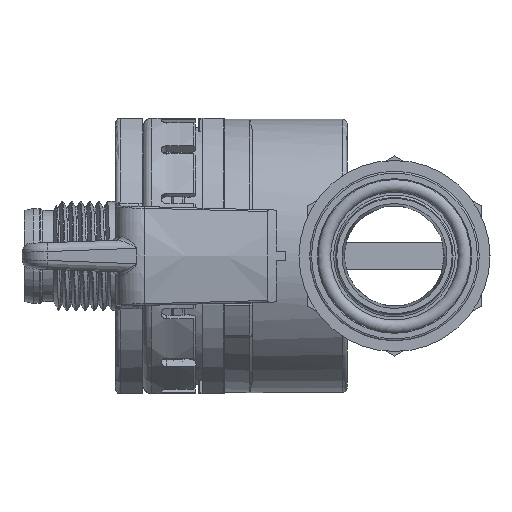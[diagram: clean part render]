
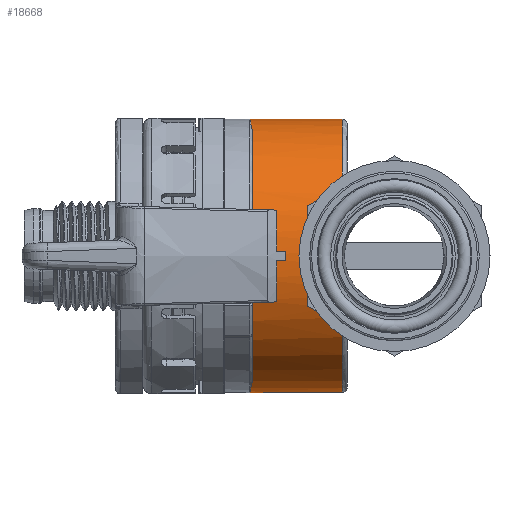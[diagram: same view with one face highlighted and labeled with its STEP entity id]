
A CAD part, left-side view. The second image highlights one B-rep face of the part: STEP entity #18668.
In plain terms, the highlighted cylindrical face has radius 15 mm (diameter 30 mm), a full revolution.
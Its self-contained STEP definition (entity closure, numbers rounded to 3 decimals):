
#1321=B_SPLINE_CURVE_WITH_KNOTS('',3,(#39299,#39300,#39301,#39302),
 .UNSPECIFIED.,.F.,.F.,(4,4),(0.,1.),.UNSPECIFIED.);
#1324=B_SPLINE_CURVE_WITH_KNOTS('',3,(#39332,#39333,#39334,#39335),
 .UNSPECIFIED.,.F.,.F.,(4,4),(0.,1.),.UNSPECIFIED.);
#1329=B_SPLINE_CURVE_WITH_KNOTS('',3,(#39442,#39443,#39444,#39445,#39446,
#39447,#39448,#39449,#39450,#39451),.UNSPECIFIED.,.F.,.F.,(4,2,2,2,4),(0.,
0.25,0.5,0.75,1.),.UNSPECIFIED.);
#1330=B_SPLINE_CURVE_WITH_KNOTS('',3,(#39455,#39456,#39457,#39458,#39459,
#39460,#39461,#39462,#39463,#39464),.UNSPECIFIED.,.F.,.F.,(4,2,2,2,4),(0.,
0.25,0.5,0.75,1.),.UNSPECIFIED.);
#1331=B_SPLINE_CURVE_WITH_KNOTS('',3,(#39465,#39466,#39467,#39468),
 .UNSPECIFIED.,.F.,.F.,(4,4),(0.,1.),.UNSPECIFIED.);
#1332=B_SPLINE_CURVE_WITH_KNOTS('',3,(#39469,#39470,#39471,#39472),
 .UNSPECIFIED.,.F.,.F.,(4,4),(0.,1.),.UNSPECIFIED.);
#1667=CYLINDRICAL_SURFACE('',#22366,15.);
#3418=EDGE_LOOP('',(#9572,#9573,#9574,#9575));
#3419=EDGE_LOOP('',(#9576,#9577,#9578,#9579,#9580,#9581));
#9572=ORIENTED_EDGE('',*,*,#12802,.T.);
#9573=ORIENTED_EDGE('',*,*,#12803,.T.);
#9574=ORIENTED_EDGE('',*,*,#12804,.T.);
#9575=ORIENTED_EDGE('',*,*,#12805,.T.);
#9576=ORIENTED_EDGE('',*,*,#12768,.T.);
#9577=ORIENTED_EDGE('',*,*,#12806,.T.);
#9578=ORIENTED_EDGE('',*,*,#12776,.T.);
#9579=ORIENTED_EDGE('',*,*,#12760,.T.);
#9580=ORIENTED_EDGE('',*,*,#12807,.T.);
#9581=ORIENTED_EDGE('',*,*,#12808,.T.);
#12760=EDGE_CURVE('',#20776,#20772,#1321,.T.);
#12768=EDGE_CURVE('',#20782,#20778,#1324,.T.);
#12776=EDGE_CURVE('',#20791,#20776,#13865,.T.);
#12802=EDGE_CURVE('',#20815,#20816,#13878,.T.);
#12803=EDGE_CURVE('',#20816,#20817,#1329,.T.);
#12804=EDGE_CURVE('',#20817,#20818,#13879,.T.);
#12805=EDGE_CURVE('',#20818,#20815,#1330,.T.);
#12806=EDGE_CURVE('',#20778,#20791,#1331,.T.);
#12807=EDGE_CURVE('',#20772,#20819,#1332,.T.);
#12808=EDGE_CURVE('',#20819,#20782,#13880,.T.);
#13865=CIRCLE('',#22344,15.);
#13878=CIRCLE('',#22363,15.);
#13879=CIRCLE('',#22364,15.);
#13880=CIRCLE('',#22365,15.);
#18668=ADVANCED_FACE('',(#19378,#19379),#1667,.T.);
#19378=FACE_BOUND('',#3418,.T.);
#19379=FACE_BOUND('',#3419,.T.);
#20772=VERTEX_POINT('',#39272);
#20776=VERTEX_POINT('',#39281);
#20778=VERTEX_POINT('',#39305);
#20782=VERTEX_POINT('',#39314);
#20791=VERTEX_POINT('',#39373);
#20815=VERTEX_POINT('',#39440);
#20816=VERTEX_POINT('',#39441);
#20817=VERTEX_POINT('',#39452);
#20818=VERTEX_POINT('',#39454);
#20819=VERTEX_POINT('',#39473);
#22344=AXIS2_PLACEMENT_3D('',#39372,#26030,#26031);
#22363=AXIS2_PLACEMENT_3D('',#39439,#26078,#26079);
#22364=AXIS2_PLACEMENT_3D('',#39453,#26080,#26081);
#22365=AXIS2_PLACEMENT_3D('',#39474,#26082,#26083);
#22366=AXIS2_PLACEMENT_3D('',#39475,#26084,#26085);
#26030=DIRECTION('',(0.,-1.,0.));
#26031=DIRECTION('',(0.,0.,-1.));
#26078=DIRECTION('',(0.,1.,0.));
#26079=DIRECTION('',(0.,0.,-1.));
#26080=DIRECTION('',(0.,1.,0.));
#26081=DIRECTION('',(0.,0.,-1.));
#26082=DIRECTION('',(0.,-1.,0.));
#26083=DIRECTION('',(0.,0.,-1.));
#26084=DIRECTION('',(0.,-1.,0.));
#26085=DIRECTION('',(0.,0.,1.));
#39272=CARTESIAN_POINT('',(0.,-2.15,-15.));
#39281=CARTESIAN_POINT('',(-6.066,-2.4,-13.719));
#39299=CARTESIAN_POINT('',(-6.066,-2.4,-13.719));
#39300=CARTESIAN_POINT('',(-4.147,-2.233,-14.567));
#39301=CARTESIAN_POINT('',(-2.106,-2.15,-15.));
#39302=CARTESIAN_POINT('',(0.,-2.15,-15.));
#39305=CARTESIAN_POINT('',(0.,-2.15,15.));
#39314=CARTESIAN_POINT('',(6.066,-2.4,13.719));
#39332=CARTESIAN_POINT('',(6.066,-2.4,13.719));
#39333=CARTESIAN_POINT('',(4.147,-2.233,14.567));
#39334=CARTESIAN_POINT('',(2.106,-2.15,15.));
#39335=CARTESIAN_POINT('',(0.,-2.15,15.));
#39372=CARTESIAN_POINT('',(0.,-2.4,0.));
#39373=CARTESIAN_POINT('',(-6.066,-2.4,13.719));
#39439=CARTESIAN_POINT('',(0.,-12.3,0.));
#39440=CARTESIAN_POINT('',(13.4,-12.3,-6.74));
#39441=CARTESIAN_POINT('',(-13.4,-12.3,-6.74));
#39442=CARTESIAN_POINT('',(-13.4,-12.3,-6.74));
#39443=CARTESIAN_POINT('',(-13.808,-11.278,-5.931));
#39444=CARTESIAN_POINT('',(-14.2,-10.497,-4.991));
#39445=CARTESIAN_POINT('',(-14.827,-9.297,-2.59));
#39446=CARTESIAN_POINT('',(-15.001,-8.998,-1.309));
#39447=CARTESIAN_POINT('',(-14.999,-9.002,1.33));
#39448=CARTESIAN_POINT('',(-14.812,-9.326,2.653));
#39449=CARTESIAN_POINT('',(-14.206,-10.484,4.96));
#39450=CARTESIAN_POINT('',(-13.806,-11.282,5.934));
#39451=CARTESIAN_POINT('',(-13.4,-12.3,6.74));
#39452=CARTESIAN_POINT('',(-13.4,-12.3,6.74));
#39453=CARTESIAN_POINT('',(0.,-12.3,0.));
#39454=CARTESIAN_POINT('',(13.4,-12.3,6.74));
#39455=CARTESIAN_POINT('',(13.4,-12.3,6.74));
#39456=CARTESIAN_POINT('',(13.808,-11.278,5.931));
#39457=CARTESIAN_POINT('',(14.2,-10.497,4.991));
#39458=CARTESIAN_POINT('',(14.827,-9.297,2.59));
#39459=CARTESIAN_POINT('',(15.001,-8.998,1.309));
#39460=CARTESIAN_POINT('',(14.999,-9.002,-1.33));
#39461=CARTESIAN_POINT('',(14.812,-9.326,-2.653));
#39462=CARTESIAN_POINT('',(14.206,-10.484,-4.96));
#39463=CARTESIAN_POINT('',(13.806,-11.282,-5.934));
#39464=CARTESIAN_POINT('',(13.4,-12.3,-6.74));
#39465=CARTESIAN_POINT('',(0.,-2.15,15.));
#39466=CARTESIAN_POINT('',(-2.107,-2.15,15.));
#39467=CARTESIAN_POINT('',(-4.146,-2.233,14.568));
#39468=CARTESIAN_POINT('',(-6.066,-2.4,13.719));
#39469=CARTESIAN_POINT('',(0.,-2.15,-15.));
#39470=CARTESIAN_POINT('',(2.107,-2.15,-15.));
#39471=CARTESIAN_POINT('',(4.146,-2.233,-14.568));
#39472=CARTESIAN_POINT('',(6.066,-2.4,-13.719));
#39473=CARTESIAN_POINT('',(6.066,-2.4,-13.719));
#39474=CARTESIAN_POINT('',(0.,-2.4,0.));
#39475=CARTESIAN_POINT('',(0.,-18.,0.));
